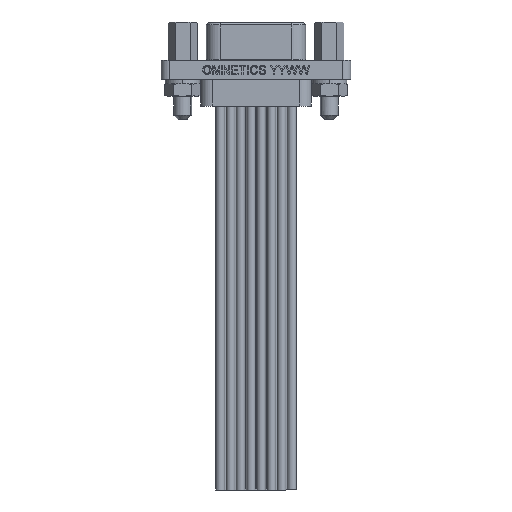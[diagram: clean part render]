
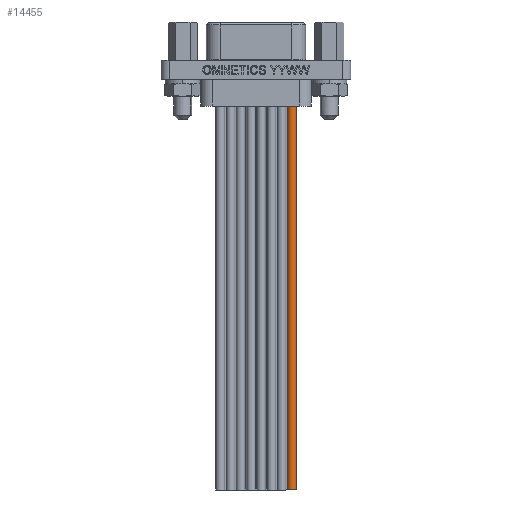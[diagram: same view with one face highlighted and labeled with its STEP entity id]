
A CAD part, front view. The second image highlights one B-rep face of the part: STEP entity #14455.
In plain terms, the highlighted cylindrical face has radius 0.546 mm (diameter 1.092 mm), a partial arc.
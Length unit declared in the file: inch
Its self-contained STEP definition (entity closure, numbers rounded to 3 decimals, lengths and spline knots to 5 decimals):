
#408 = CARTESIAN_POINT ( 'NONE',  ( 0.1965, -0.02165, -2.056 ) ) ;
#426 = DIRECTION ( 'NONE',  ( 0., 0., 1. ) ) ;
#944 = CARTESIAN_POINT ( 'NONE',  ( 0.1535, -0.02165, -2.056 ) ) ;
#946 = DIRECTION ( 'NONE',  ( 0., 0., 1. ) ) ;
#1186 = DIRECTION ( 'NONE',  ( -1., 0., 0. ) ) ;
#1187 = DIRECTION ( 'NONE',  ( 0., 0., -1. ) ) ;
#1188 = CARTESIAN_POINT ( 'NONE',  ( 0.175, -0.02165, -2.056 ) ) ;
#1371 = ORIENTED_EDGE ( 'NONE', *, *, #5429, .T. ) ;
#1436 = ORIENTED_EDGE ( 'NONE', *, *, #5956, .F. ) ;
#1449 = ORIENTED_EDGE ( 'NONE', *, *, #5878, .F. ) ;
#1459 = ORIENTED_EDGE ( 'NONE', *, *, #5693, .F. ) ;
#4327 = CYLINDRICAL_SURFACE ( 'NONE', #5864, 0.0215 ) ;
#4339 = FACE_OUTER_BOUND ( 'NONE', #12060, .T. ) ;
#5199 = DIRECTION ( 'NONE',  ( 0., -1., 0. ) ) ;
#5200 = DIRECTION ( 'NONE',  ( 0., 0., 1. ) ) ;
#5201 = CARTESIAN_POINT ( 'NONE',  ( 0.175, -0.02165, -0.181 ) ) ;
#5429 = EDGE_CURVE ( 'NONE', #11575, #11573, #8550, .T. ) ;
#5693 = EDGE_CURVE ( 'NONE', #11572, #11573, #8653, .T. ) ;
#5864 = AXIS2_PLACEMENT_3D ( 'NONE', #10301, #10326, #10321 ) ;
#5878 = EDGE_CURVE ( 'NONE', #11575, #11578, #8520, .T. ) ;
#5956 = EDGE_CURVE ( 'NONE', #11578, #11572, #11103, .T. ) ;
#6395 = AXIS2_PLACEMENT_3D ( 'NONE', #5201, #5200, #5199 ) ;
#6504 = AXIS2_PLACEMENT_3D ( 'NONE', #1188, #1187, #1186 ) ;
#8520 = CIRCLE ( 'NONE', #6504, 0.0215 ) ;
#8543 = VECTOR ( 'NONE', #426, 39.37008 ) ;
#8550 = LINE ( 'NONE', #408, #8543 ) ;
#8653 = CIRCLE ( 'NONE', #6395, 0.0215 ) ;
#10301 = CARTESIAN_POINT ( 'NONE',  ( 0.175, -0.02165, -2.056 ) ) ;
#10321 = DIRECTION ( 'NONE',  ( 1., 0., 0. ) ) ;
#10326 = DIRECTION ( 'NONE',  ( 0., 0., 1. ) ) ;
#11086 = VECTOR ( 'NONE', #946, 39.37008 ) ;
#11103 = LINE ( 'NONE', #944, #11086 ) ;
#11572 = VERTEX_POINT ( 'NONE', #13123 ) ;
#11573 = VERTEX_POINT ( 'NONE', #13122 ) ;
#11575 = VERTEX_POINT ( 'NONE', #13119 ) ;
#11578 = VERTEX_POINT ( 'NONE', #13115 ) ;
#12060 = EDGE_LOOP ( 'NONE', ( #1436, #1449, #1371, #1459 ) ) ;
#13115 = CARTESIAN_POINT ( 'NONE',  ( 0.1535, -0.02165, -2.056 ) ) ;
#13119 = CARTESIAN_POINT ( 'NONE',  ( 0.1965, -0.02165, -2.056 ) ) ;
#13122 = CARTESIAN_POINT ( 'NONE',  ( 0.1965, -0.02165, -0.181 ) ) ;
#13123 = CARTESIAN_POINT ( 'NONE',  ( 0.1535, -0.02165, -0.181 ) ) ;
#14455 = ADVANCED_FACE ( 'NONE', ( #4339 ), #4327, .T. ) ;
